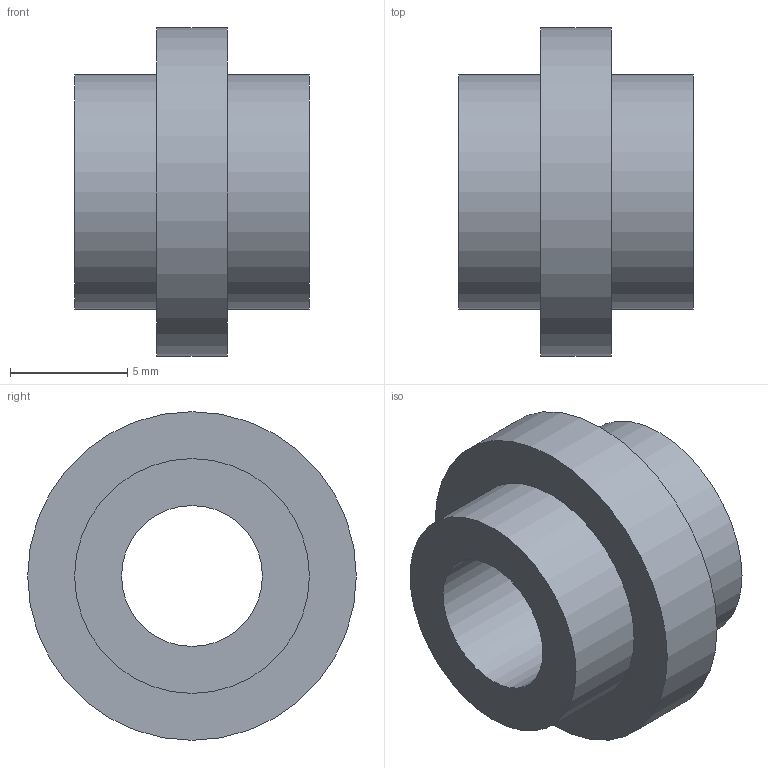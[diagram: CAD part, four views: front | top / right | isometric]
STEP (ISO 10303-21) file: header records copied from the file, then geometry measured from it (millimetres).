
FILE_DESCRIPTION(/* description */ ('STEP AP214'),/* implementation_level */ '2;1');
FILE_NAME(/* name */ 'Mounting Accessory GN 753.2-8-10-3-AB-NI',/* time_stamp */ '2024-12-09T14:01:03+01:00',/* author */ ('License CC BY-ND 4.0'),/* organization */ ('CADENAS'),/* preprocessor_version */ 'ST-DEVELOPER v19.3',/* originating_system */ 'PARTsolutions',/* authorisation */ ' ');
FILE_SCHEMA (('AUTOMOTIVE_DESIGN {1 0 10303 214 3 1 1}'));
Length unit declared in the file: millimetre
Products named in the file (1): Mounting Accessory GN 753.2-8-10-3-AB-NI
Bounding box: 10 x 14 x 14 mm (x, y, z)
Volume: 728.8 mm3; surface area: 791.7 mm2
Topology: 1 solids, 1 shells, 8 faces, 12 edges, 8 vertices
Faces by surface type: plane 4, cylinder 4
Full cylindrical faces by diameter (mm): 6 x1, 10 x2, 14 x1
Entity records: 198 total; most frequent: DIRECTION 34, CARTESIAN_POINT 25, AXIS2_PLACEMENT_3D 17, ORIENTED_EDGE 16, EDGE_LOOP 16, FACE_BOUND 16, EDGE_CURVE 8, VERTEX_POINT 8
